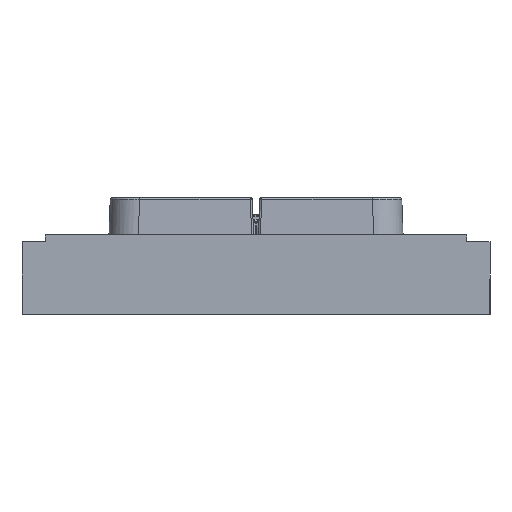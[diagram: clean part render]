
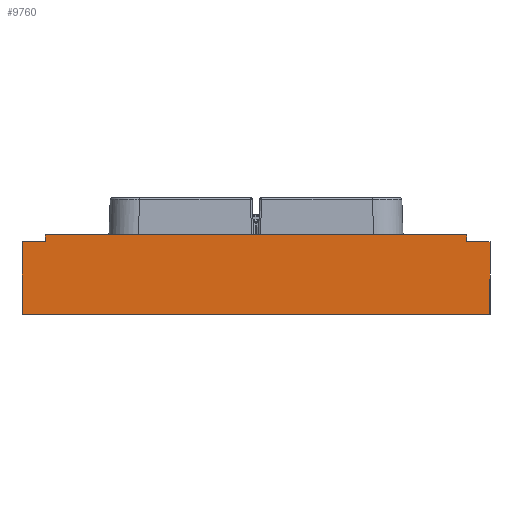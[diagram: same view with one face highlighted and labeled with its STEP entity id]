
A CAD part, front view. The second image highlights one B-rep face of the part: STEP entity #9760.
In plain terms, the highlighted planar face has unit normal (0, -1, 0).
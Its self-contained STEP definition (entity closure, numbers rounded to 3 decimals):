
#15 = DIRECTION ( 'NONE',  ( 0., 1., 0. ) ) ;
#506 = VERTEX_POINT ( 'NONE', #13071 ) ;
#703 = ORIENTED_EDGE ( 'NONE', *, *, #11581, .F. ) ;
#728 = CARTESIAN_POINT ( 'NONE',  ( -54., -60., -13.791 ) ) ;
#1122 = LINE ( 'NONE', #6352, #5888 ) ;
#1690 = LINE ( 'NONE', #6932, #6414 ) ;
#1781 = LINE ( 'NONE', #7023, #3722 ) ;
#1801 = EDGE_CURVE ( 'NONE', #10345, #8120, #6395, .T. ) ;
#1804 = EDGE_CURVE ( 'NONE', #2970, #13811, #5102, .T. ) ;
#2039 = VERTEX_POINT ( 'NONE', #10160 ) ;
#2078 = ORIENTED_EDGE ( 'NONE', *, *, #16446, .F. ) ;
#2288 = CARTESIAN_POINT ( 'NONE',  ( 54., -60., -13.791 ) ) ;
#2314 = ORIENTED_EDGE ( 'NONE', *, *, #1801, .F. ) ;
#2718 = CARTESIAN_POINT ( 'NONE',  ( -54., -60., -12.041 ) ) ;
#2836 = DIRECTION ( 'NONE',  ( -1., 0., 0. ) ) ;
#2907 = VECTOR ( 'NONE', #16810, 1000. ) ;
#2970 = VERTEX_POINT ( 'NONE', #12615 ) ;
#3431 = EDGE_CURVE ( 'NONE', #5713, #13505, #1781, .T. ) ;
#3589 = CARTESIAN_POINT ( 'NONE',  ( 60., -60., -13.791 ) ) ;
#3722 = VECTOR ( 'NONE', #12246, 1000. ) ;
#4531 = LINE ( 'NONE', #9784, #15725 ) ;
#4874 = ORIENTED_EDGE ( 'NONE', *, *, #5191, .F. ) ;
#5102 = LINE ( 'NONE', #10349, #9396 ) ;
#5191 = EDGE_CURVE ( 'NONE', #13505, #10345, #4531, .T. ) ;
#5252 = DIRECTION ( 'NONE',  ( 0., 0., 1. ) ) ;
#5687 = ORIENTED_EDGE ( 'NONE', *, *, #7619, .T. ) ;
#5713 = VERTEX_POINT ( 'NONE', #6338 ) ;
#5775 = ORIENTED_EDGE ( 'NONE', *, *, #1804, .F. ) ;
#5861 = ORIENTED_EDGE ( 'NONE', *, *, #15832, .T. ) ;
#5888 = VECTOR ( 'NONE', #11579, 1000. ) ;
#6338 = CARTESIAN_POINT ( 'NONE',  ( -60., -60., -13.791 ) ) ;
#6352 = CARTESIAN_POINT ( 'NONE',  ( 60., -60., -32.488 ) ) ;
#6395 = LINE ( 'NONE', #11626, #2907 ) ;
#6414 = VECTOR ( 'NONE', #12148, 1000. ) ;
#6549 = PLANE ( 'NONE',  #15699 ) ;
#6932 = CARTESIAN_POINT ( 'NONE',  ( -60., -60., -32.488 ) ) ;
#7023 = CARTESIAN_POINT ( 'NONE',  ( -66., -60., -13.791 ) ) ;
#7529 = DIRECTION ( 'NONE',  ( 0., 0., 1. ) ) ;
#7552 = EDGE_LOOP ( 'NONE', ( #2314, #4874, #12603, #2078, #703, #5861, #5775, #5687 ) ) ;
#7619 = EDGE_CURVE ( 'NONE', #2970, #8120, #13997, .T. ) ;
#8120 = VERTEX_POINT ( 'NONE', #13222 ) ;
#9363 = LINE ( 'NONE', #14542, #10316 ) ;
#9396 = VECTOR ( 'NONE', #15532, 1000. ) ;
#9760 = ADVANCED_FACE ( 'NONE', ( #14312 ), #6549, .F. ) ;
#9784 = CARTESIAN_POINT ( 'NONE',  ( -54., -60., -13.791 ) ) ;
#10007 = VECTOR ( 'NONE', #7529, 1000. ) ;
#10160 = CARTESIAN_POINT ( 'NONE',  ( 60., -60., -32.488 ) ) ;
#10316 = VECTOR ( 'NONE', #2836, 1000. ) ;
#10345 = VERTEX_POINT ( 'NONE', #2718 ) ;
#10349 = CARTESIAN_POINT ( 'NONE',  ( 66., -60., -13.791 ) ) ;
#11579 = DIRECTION ( 'NONE',  ( 0., 0., 1. ) ) ;
#11581 = EDGE_CURVE ( 'NONE', #2039, #506, #9363, .T. ) ;
#11626 = CARTESIAN_POINT ( 'NONE',  ( -60., -60., -12.041 ) ) ;
#11777 = CARTESIAN_POINT ( 'NONE',  ( 60., -60., -32.488 ) ) ;
#12148 = DIRECTION ( 'NONE',  ( 0., 0., 1. ) ) ;
#12246 = DIRECTION ( 'NONE',  ( 1., 0., 0. ) ) ;
#12603 = ORIENTED_EDGE ( 'NONE', *, *, #3431, .F. ) ;
#12615 = CARTESIAN_POINT ( 'NONE',  ( 54., -60., -13.791 ) ) ;
#13071 = CARTESIAN_POINT ( 'NONE',  ( -60., -60., -32.488 ) ) ;
#13222 = CARTESIAN_POINT ( 'NONE',  ( 54., -60., -12.041 ) ) ;
#13505 = VERTEX_POINT ( 'NONE', #728 ) ;
#13811 = VERTEX_POINT ( 'NONE', #3589 ) ;
#13997 = LINE ( 'NONE', #2288, #10007 ) ;
#14312 = FACE_OUTER_BOUND ( 'NONE', #7552, .T. ) ;
#14542 = CARTESIAN_POINT ( 'NONE',  ( 60., -60., -32.488 ) ) ;
#14965 = DIRECTION ( 'NONE',  ( 0., 0., 1. ) ) ;
#15532 = DIRECTION ( 'NONE',  ( 1., 0., 0. ) ) ;
#15699 = AXIS2_PLACEMENT_3D ( 'NONE', #11777, #15, #5252 ) ;
#15725 = VECTOR ( 'NONE', #14965, 1000. ) ;
#15832 = EDGE_CURVE ( 'NONE', #2039, #13811, #1122, .T. ) ;
#16446 = EDGE_CURVE ( 'NONE', #506, #5713, #1690, .T. ) ;
#16810 = DIRECTION ( 'NONE',  ( 1., 0., 0. ) ) ;
